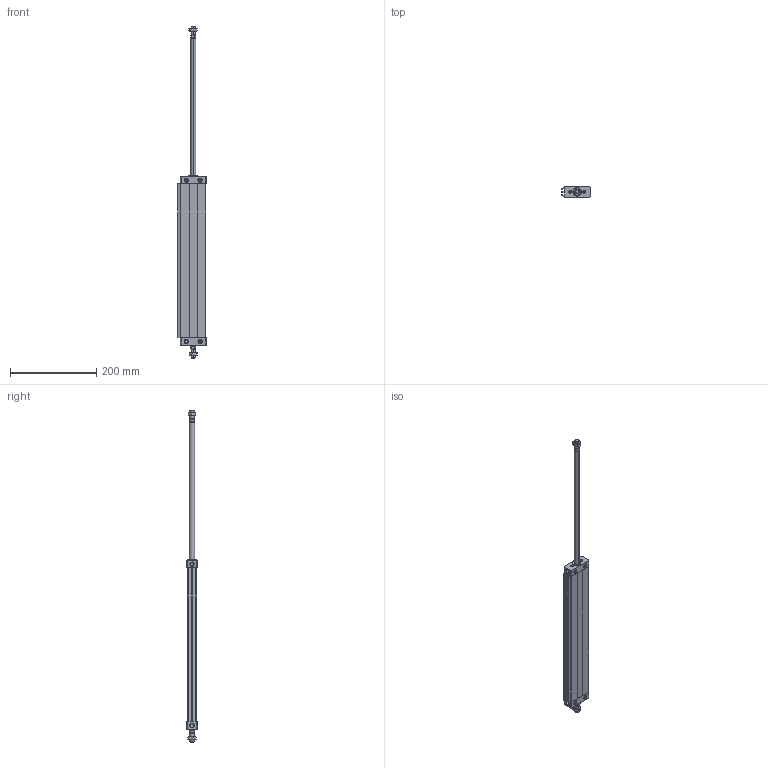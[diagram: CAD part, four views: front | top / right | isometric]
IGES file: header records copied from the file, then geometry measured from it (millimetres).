
Global section: file name: No Iges File Name specified; native system: Autodesk Inventor 2011; preprocessor: AutoDesk Inventor Iges Exporter R2011; author: airolcr1; date: 20101213.153106; units: millimetre
Bounding box: 65.5 x 24 x 772 mm (x, y, z)
Volume: 366792.1 mm3; surface area: 166497.1 mm2
Topology: 6 solids, 6 shells, 274 faces, 646 edges, 392 vertices
Faces by surface type: bspline 110, plane 96, cone 36, cylinder 18, revolution 14
